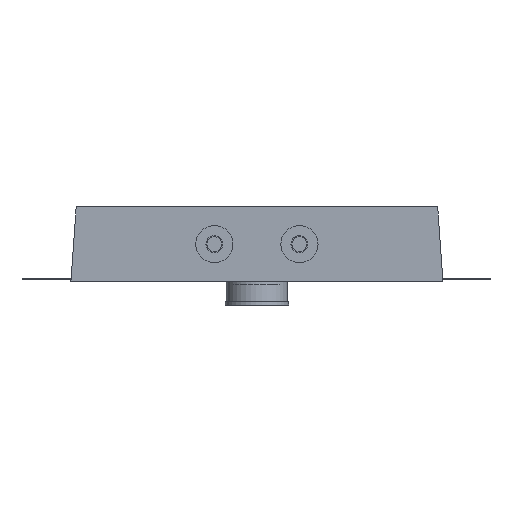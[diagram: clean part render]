
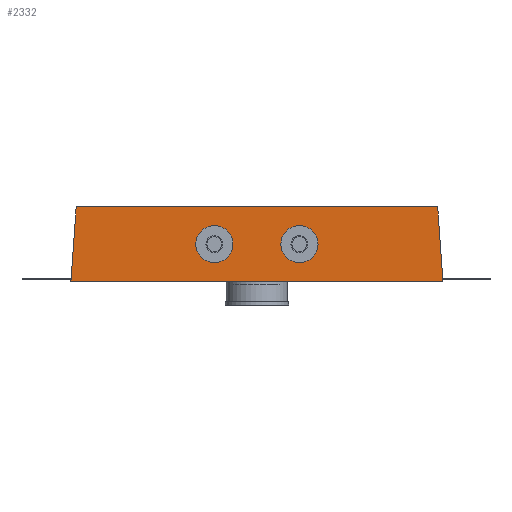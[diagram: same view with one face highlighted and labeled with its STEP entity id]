
A CAD part, front view. The second image highlights one B-rep face of the part: STEP entity #2332.
In plain terms, the highlighted planar face has unit normal (0, -1, 0) as drawn and (0, 1, 0) by its records, which use the part's own axes.
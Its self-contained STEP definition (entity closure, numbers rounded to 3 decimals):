
#127=LINE('',#3373,#337);
#133=LINE('',#3387,#343);
#135=LINE('',#3390,#345);
#308=LINE('',#4050,#518);
#337=VECTOR('',#2780,10.);
#343=VECTOR('',#2792,10.);
#345=VECTOR('',#2796,10.);
#518=VECTOR('',#3137,10.);
#619=PLANE('',#2651);
#664=FACE_BOUND('',#969,.T.);
#665=FACE_BOUND('',#970,.T.);
#804=FACE_OUTER_BOUND('',#968,.T.);
#968=EDGE_LOOP('',(#2069,#2070,#2071,#2072));
#969=EDGE_LOOP('',(#2073));
#970=EDGE_LOOP('',(#2074));
#1055=CIRCLE('',#2557,17.5);
#1057=CIRCLE('',#2561,17.5);
#1109=VERTEX_POINT('',#3357);
#1111=VERTEX_POINT('',#3363);
#1114=VERTEX_POINT('',#3370);
#1115=VERTEX_POINT('',#3372);
#1119=VERTEX_POINT('',#3384);
#1120=VERTEX_POINT('',#3386);
#1323=EDGE_CURVE('',#1109,#1109,#1055,.T.);
#1325=EDGE_CURVE('',#1111,#1111,#1057,.T.);
#1328=EDGE_CURVE('',#1115,#1114,#127,.T.);
#1335=EDGE_CURVE('',#1120,#1119,#133,.T.);
#1337=EDGE_CURVE('',#1115,#1119,#135,.T.);
#1553=EDGE_CURVE('',#1120,#1114,#308,.T.);
#2069=ORIENTED_EDGE('',*,*,#1328,.T.);
#2070=ORIENTED_EDGE('',*,*,#1553,.F.);
#2071=ORIENTED_EDGE('',*,*,#1335,.T.);
#2072=ORIENTED_EDGE('',*,*,#1337,.F.);
#2073=ORIENTED_EDGE('',*,*,#1323,.T.);
#2074=ORIENTED_EDGE('',*,*,#1325,.T.);
#2332=ADVANCED_FACE('',(#804,#664,#665),#619,.T.);
#2557=AXIS2_PLACEMENT_3D('',#3358,#2764,#2765);
#2561=AXIS2_PLACEMENT_3D('',#3364,#2772,#2773);
#2651=AXIS2_PLACEMENT_3D('',#4049,#3135,#3136);
#2764=DIRECTION('center_axis',(0.,-1.,0.));
#2765=DIRECTION('ref_axis',(-1.,0.,0.));
#2772=DIRECTION('center_axis',(0.,-1.,0.));
#2773=DIRECTION('ref_axis',(-1.,0.,0.));
#2780=DIRECTION('',(0.997,0.,0.071));
#2792=DIRECTION('',(-0.997,0.,0.071));
#2796=DIRECTION('',(0.,0.,-1.));
#3135=DIRECTION('center_axis',(0.,1.,0.));
#3136=DIRECTION('ref_axis',(0.,0.,1.));
#3137=DIRECTION('',(0.,0.,1.));
#3357=CARTESIAN_POINT('',(52.5,270.,-215.));
#3358=CARTESIAN_POINT('Origin',(35.,270.,-215.));
#3363=CARTESIAN_POINT('',(52.5,270.,-135.));
#3364=CARTESIAN_POINT('Origin',(35.,270.,-135.));
#3370=CARTESIAN_POINT('',(70.,270.,0.));
#3372=CARTESIAN_POINT('',(0.,270.,-5.));
#3373=CARTESIAN_POINT('',(22.741,270.,-3.376));
#3384=CARTESIAN_POINT('',(0.,270.,-345.));
#3386=CARTESIAN_POINT('',(70.,270.,-350.));
#3387=CARTESIAN_POINT('',(35.178,270.,-347.513));
#3390=CARTESIAN_POINT('',(0.,270.,0.));
#4049=CARTESIAN_POINT('Origin',(0.,270.,-350.));
#4050=CARTESIAN_POINT('',(70.,270.,0.));
